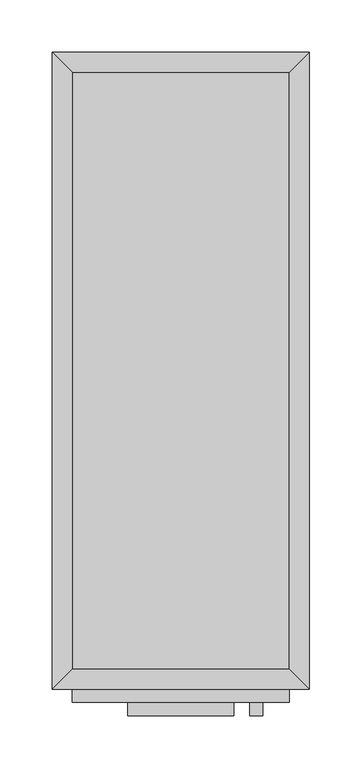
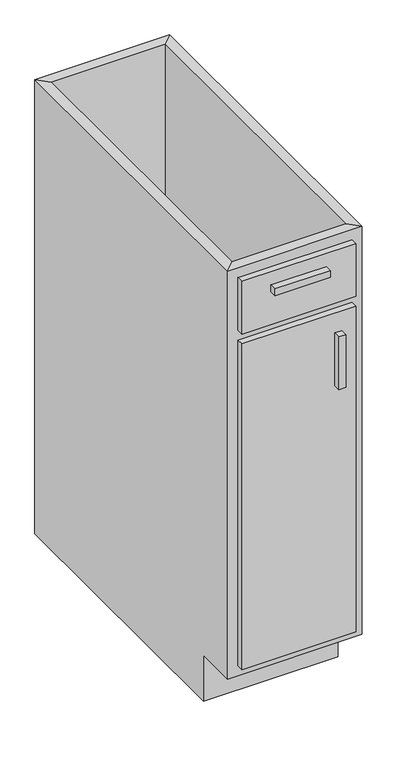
"""IFC4 building model written with IfcOpenShell, lengths in millimetres: furniture geometry, Base Cabinet-Single Door & Drawer : WOODER."""

from ifc_helpers import new_model, si_unit, frame, origin, place, context, project, spatial, polyline, outline, extrude, faceted_brep, source, transform, mapped, element, save


def furniture_b0f89009(model_context):
    return source(origin(), model_context, "Body", "SolidModel", [
        faceted_brep([(122.7189549, -590.55, 876.3), (122.7189549, -590.55, 88.9), (-85.2435451, -590.55, 88.9), (-85.2435451, -590.55, 876.3), (-104.2935451, -609.6, 876.3), (141.7689549, -609.6, 876.3), (-104.2935451, -609.6, 88.9), (141.7689549, -609.6, 88.9), (-85.2435451, -533.4, 88.9), (-85.2435451, -19.05, 88.9), (-85.2435451, -19.05, 876.3), (-104.2935451, 0.0, 876.3), (-104.2935451, 0.0, 0.0), (-104.2935451, -533.4, 0.0), (-104.2935451, -533.4, 88.9), (122.7189549, -19.05, 88.9), (122.7189549, -19.05, 876.3), (141.7689549, 0.0, 876.3), (141.7689549, 0.0, 0.0), (122.7189549, -533.4, 88.9), (141.7689549, -533.4, 88.9), (141.7689549, -533.4, 0.0)], [[[0, 1, 2, 3]], [[0, 3, 4, 5]], [[5, 4, 6, 7]], [[2, 1, 7, 6]], [[3, 2, 8, 9, 10]], [[4, 3, 10, 11]], [[6, 4, 11, 12, 13, 14]], [[2, 6, 14, 8]], [[10, 9, 15, 16]], [[11, 10, 16, 17]], [[12, 11, 17, 18]], [[1, 0, 16, 15, 19]], [[0, 5, 17, 16]], [[5, 7, 20, 21, 18, 17]], [[7, 1, 19, 20]], [[8, 19, 15, 9]], [[18, 21, 13, 12]], [[13, 21, 20, 19, 8, 14]]]),
        extrude(outline(polyline([(97.3189549, -635.0), (84.6189549, -635.0), (84.6189549, -622.3), (97.3189549, -622.3), (97.3189549, -635.0)])), frame((0.0, 0.0, 596.9), z_axis=(0.0, 0.0, 1.0), x_axis=(1.0, 0.0, 0.0)), (0.0, 0.0, 1.0), 101.6),
        extrude(outline(polyline([(69.5377049, -635.0), (-32.0622951, -635.0), (-32.0622951, -622.3), (69.5377049, -622.3), (69.5377049, -635.0)])), frame((0.0, 0.0, 819.15), z_axis=(0.0, 0.0, 1.0), x_axis=(1.0, 0.0, 0.0)), (0.0, 0.0, 1.0), 12.7),
        extrude(outline(polyline([(122.7189549, -622.3), (-85.2435451, -622.3), (-85.2435451, -609.6), (122.7189549, -609.6), (122.7189549, -622.3)])), frame((0.0, 0.0, 107.95), z_axis=(0.0, 0.0, 1.0), x_axis=(1.0, 0.0, 0.0)), (0.0, 0.0, 1.0), 628.65),
        extrude(outline(polyline([(122.7189549, -622.3), (-85.2435451, -622.3), (-85.2435451, -609.6), (122.7189549, -609.6), (122.7189549, -622.3)])), frame((0.0, 0.0, 755.65), z_axis=(0.0, 0.0, 1.0), x_axis=(1.0, 0.0, 0.0)), (0.0, 0.0, 1.0), 101.6),
        extrude(outline(polyline([(122.7189549, -19.05), (122.7189549, -590.55), (-85.2435451, -590.55), (-85.2435451, -19.05), (122.7189549, -19.05)])), frame((0.0, 0.0, 88.9), z_axis=(0.0, 0.0, 1.0), x_axis=(1.0, 0.0, 0.0)), (0.0, 0.0, 1.0), 19.05),
    ])


if __name__ == "__main__":
    model = new_model("IFC4")
    model_context = context("Model", 3, world=origin())
    ifc_project = project(units=[si_unit("LENGTHUNIT", "METRE", prefix="MILLI")], contexts=[model_context])
    site = spatial("IfcSite", under=ifc_project)
    building = spatial("IfcBuilding", under=site)
    placement = place(None, origin())
    furniture_shape = furniture_b0f89009(model_context)
    element("IfcFurniture", 1, ObjectType="Base Cabinet-Single Door & Drawer : WOODER", at=placement, inside=building, context=model_context, shape_type="MappedRepresentation", body=[
        mapped(furniture_shape, transform((0.0, 0.0, 0.0), x_axis=(1.0, 0.0, 0.0), y_axis=(0.0, 1.0, 0.0), z_axis=(0.0, 0.0, 1.0))),
    ])
    save(model, "model.ifc")
